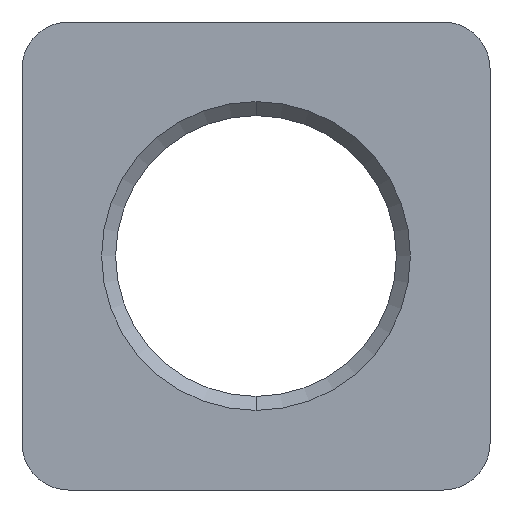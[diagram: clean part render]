
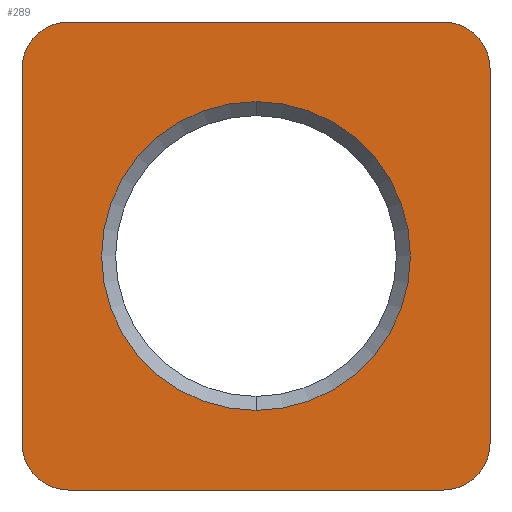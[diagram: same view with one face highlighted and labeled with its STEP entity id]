
A CAD part, front view. The second image highlights one B-rep face of the part: STEP entity #289.
In plain terms, the highlighted planar face has unit normal (0, -1, 0).
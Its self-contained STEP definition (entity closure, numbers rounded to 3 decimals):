
#82 = VERTEX_POINT ( 'NONE', #484 ) ;
#89 = EDGE_CURVE ( 'NONE', #94, #96, #472, .T. ) ;
#94 = VERTEX_POINT ( 'NONE', #459 ) ;
#96 = VERTEX_POINT ( 'NONE', #457 ) ;
#183 = VERTEX_POINT ( 'NONE', #618 ) ;
#188 = EDGE_CURVE ( 'NONE', #82, #200, #671, .T. ) ;
#191 = EDGE_CURVE ( 'NONE', #96, #82, #663, .T. ) ;
#200 = VERTEX_POINT ( 'NONE', #644 ) ;
#224 = VERTEX_POINT ( 'NONE', #721 ) ;
#226 = VERTEX_POINT ( 'NONE', #720 ) ;
#246 = EDGE_CURVE ( 'NONE', #200, #183, #739, .T. ) ;
#252 = VERTEX_POINT ( 'NONE', #785 ) ;
#278 = EDGE_CURVE ( 'NONE', #226, #224, #808, .T. ) ;
#288 = EDGE_CURVE ( 'NONE', #301, #94, #850, .T. ) ;
#289 = ADVANCED_FACE ( 'NONE', ( #846, #845 ), #844, .F. ) ;
#290 = EDGE_LOOP ( 'NONE', ( #291, #292 ) ) ;
#291 = ORIENTED_EDGE ( 'NONE', *, *, #278, .T. ) ;
#292 = ORIENTED_EDGE ( 'NONE', *, *, #293, .T. ) ;
#293 = EDGE_CURVE ( 'NONE', #224, #226, #841, .T. ) ;
#294 = EDGE_LOOP ( 'NONE', ( #295, #296, #352, #353, #354, #355, #356, #357 ) ) ;
#295 = ORIENTED_EDGE ( 'NONE', *, *, #89, .F. ) ;
#296 = ORIENTED_EDGE ( 'NONE', *, *, #288, .F. ) ;
#301 = VERTEX_POINT ( 'NONE', #829 ) ;
#306 = EDGE_CURVE ( 'NONE', #316, #301, #890, .T. ) ;
#311 = EDGE_CURVE ( 'NONE', #183, #252, #882, .T. ) ;
#316 = VERTEX_POINT ( 'NONE', #863 ) ;
#321 = EDGE_CURVE ( 'NONE', #252, #316, #921, .T. ) ;
#352 = ORIENTED_EDGE ( 'NONE', *, *, #306, .F. ) ;
#353 = ORIENTED_EDGE ( 'NONE', *, *, #321, .F. ) ;
#354 = ORIENTED_EDGE ( 'NONE', *, *, #311, .F. ) ;
#355 = ORIENTED_EDGE ( 'NONE', *, *, #246, .F. ) ;
#356 = ORIENTED_EDGE ( 'NONE', *, *, #188, .F. ) ;
#357 = ORIENTED_EDGE ( 'NONE', *, *, #191, .F. ) ;
#457 = CARTESIAN_POINT ( 'NONE',  ( -20., 0., -16. ) ) ;
#459 = CARTESIAN_POINT ( 'NONE',  ( -16., 0., -20. ) ) ;
#468 = DIRECTION ( 'NONE',  ( 0., 0., 1. ) ) ;
#469 = DIRECTION ( 'NONE',  ( 0., 1., 0. ) ) ;
#470 = CARTESIAN_POINT ( 'NONE',  ( -16., 0., -16. ) ) ;
#471 = AXIS2_PLACEMENT_3D ( 'NONE', #470, #469, #468 ) ;
#472 = CIRCLE ( 'NONE', #471, 4. ) ;
#484 = CARTESIAN_POINT ( 'NONE',  ( -20., 0., 16. ) ) ;
#618 = CARTESIAN_POINT ( 'NONE',  ( 16., 0., 20. ) ) ;
#644 = CARTESIAN_POINT ( 'NONE',  ( -16., 0., 20. ) ) ;
#660 = DIRECTION ( 'NONE',  ( 0., 0., 1. ) ) ;
#661 = VECTOR ( 'NONE', #660, 1000. ) ;
#662 = CARTESIAN_POINT ( 'NONE',  ( -20., 0., 16. ) ) ;
#663 = LINE ( 'NONE', #662, #661 ) ;
#664 = DIRECTION ( 'NONE',  ( 0., 0., -1. ) ) ;
#665 = DIRECTION ( 'NONE',  ( 0., 1., 0. ) ) ;
#666 = CARTESIAN_POINT ( 'NONE',  ( -16., 0., 16. ) ) ;
#667 = AXIS2_PLACEMENT_3D ( 'NONE', #666, #665, #664 ) ;
#671 = CIRCLE ( 'NONE', #667, 4. ) ;
#720 = CARTESIAN_POINT ( 'NONE',  ( 0., 0., -13.2 ) ) ;
#721 = CARTESIAN_POINT ( 'NONE',  ( 0., 0., 13.2 ) ) ;
#736 = DIRECTION ( 'NONE',  ( 1., 0., 0. ) ) ;
#737 = VECTOR ( 'NONE', #736, 1000. ) ;
#738 = CARTESIAN_POINT ( 'NONE',  ( -16., 0., 20. ) ) ;
#739 = LINE ( 'NONE', #738, #737 ) ;
#785 = CARTESIAN_POINT ( 'NONE',  ( 20., 0., 16. ) ) ;
#804 = DIRECTION ( 'NONE',  ( 0., 0., 1. ) ) ;
#805 = DIRECTION ( 'NONE',  ( 0., 1., 0. ) ) ;
#806 = CARTESIAN_POINT ( 'NONE',  ( 0., 0., 0. ) ) ;
#807 = AXIS2_PLACEMENT_3D ( 'NONE', #806, #805, #804 ) ;
#808 = CIRCLE ( 'NONE', #807, 13.2 ) ;
#829 = CARTESIAN_POINT ( 'NONE',  ( 16., 0., -20. ) ) ;
#835 = DIRECTION ( 'NONE',  ( 0., 0., 1. ) ) ;
#836 = DIRECTION ( 'NONE',  ( 0., 1., 0. ) ) ;
#837 = CARTESIAN_POINT ( 'NONE',  ( 0., 0., 0. ) ) ;
#838 = AXIS2_PLACEMENT_3D ( 'NONE', #837, #836, #835 ) ;
#839 = DIRECTION ( 'NONE',  ( 0., 0., 1. ) ) ;
#840 = DIRECTION ( 'NONE',  ( 0., 1., 0. ) ) ;
#841 = CIRCLE ( 'NONE', #838, 13.2 ) ;
#842 = CARTESIAN_POINT ( 'NONE',  ( -16., 0., -16. ) ) ;
#843 = AXIS2_PLACEMENT_3D ( 'NONE', #842, #840, #839 ) ;
#844 = PLANE ( 'NONE',  #843 ) ;
#845 = FACE_OUTER_BOUND ( 'NONE', #294, .T. ) ;
#846 = FACE_BOUND ( 'NONE', #290, .T. ) ;
#847 = DIRECTION ( 'NONE',  ( -1., 0., 0. ) ) ;
#848 = VECTOR ( 'NONE', #847, 1000. ) ;
#849 = CARTESIAN_POINT ( 'NONE',  ( -16., 0., -20. ) ) ;
#850 = LINE ( 'NONE', #849, #848 ) ;
#863 = CARTESIAN_POINT ( 'NONE',  ( 20., 0., -16. ) ) ;
#875 = DIRECTION ( 'NONE',  ( 0., 0., 1. ) ) ;
#876 = DIRECTION ( 'NONE',  ( 0., 1., 0. ) ) ;
#877 = CARTESIAN_POINT ( 'NONE',  ( 16., 0., 16. ) ) ;
#878 = AXIS2_PLACEMENT_3D ( 'NONE', #877, #876, #875 ) ;
#882 = CIRCLE ( 'NONE', #878, 4. ) ;
#886 = DIRECTION ( 'NONE',  ( 0., 0., -1. ) ) ;
#887 = DIRECTION ( 'NONE',  ( 0., 1., 0. ) ) ;
#888 = CARTESIAN_POINT ( 'NONE',  ( 16., 0., -16. ) ) ;
#889 = AXIS2_PLACEMENT_3D ( 'NONE', #888, #887, #886 ) ;
#890 = CIRCLE ( 'NONE', #889, 4. ) ;
#918 = DIRECTION ( 'NONE',  ( 0., 0., -1. ) ) ;
#919 = VECTOR ( 'NONE', #918, 1000. ) ;
#920 = CARTESIAN_POINT ( 'NONE',  ( 20., 0., 16. ) ) ;
#921 = LINE ( 'NONE', #920, #919 ) ;
